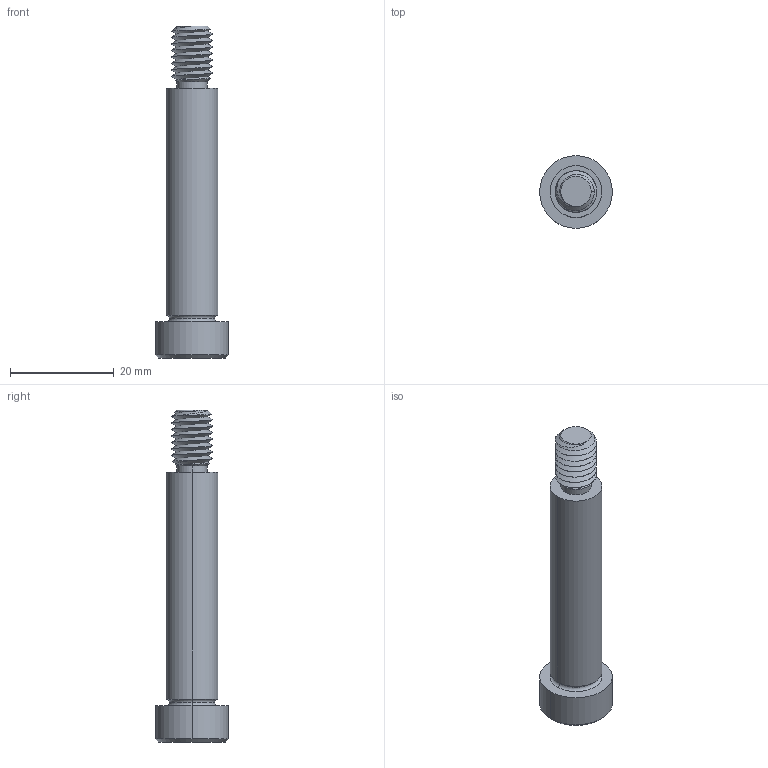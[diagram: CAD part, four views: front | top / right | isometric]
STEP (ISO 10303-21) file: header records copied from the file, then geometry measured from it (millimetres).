
FILE_DESCRIPTION (( 'STEP AP203' ), '1' );
FILE_NAME ('P0130.100-045-B8.step', '2021-11-09T21:55:36', ( '' ), ( '' ), 'SwSTEP 2.0', 'SolidWorks 2019', '' );
FILE_SCHEMA (( 'CONFIG_CONTROL_DESIGN' ));
Length unit declared in the file: millimetre
Products named in the file (1): P0130.100-045-B8
Bounding box: 14 x 14 x 64 mm (x, y, z)
Volume: 4903.5 mm3; surface area: 2591.9 mm2
Topology: 1 solids, 1 shells, 58 faces, 136 edges, 81 vertices
Faces by surface type: cylinder 20, cone 16, plane 16, torus 4, bspline 2
Entity records: 4248 total; most frequent: CARTESIAN_POINT 2944, ORIENTED_EDGE 268, DIRECTION 241, EDGE_CURVE 134, AXIS2_PLACEMENT_3D 97, VERTEX_POINT 81, EDGE_LOOP 61, FACE_OUTER_BOUND 58
